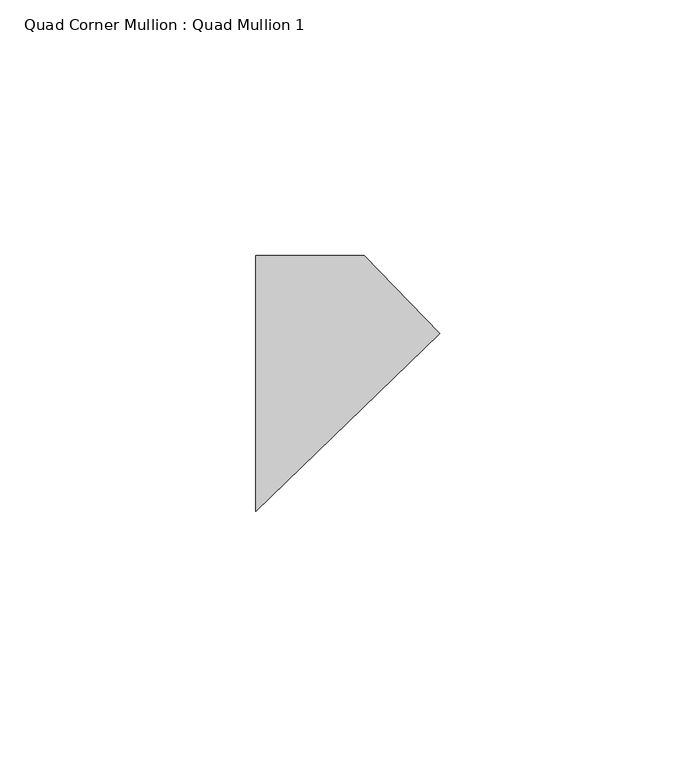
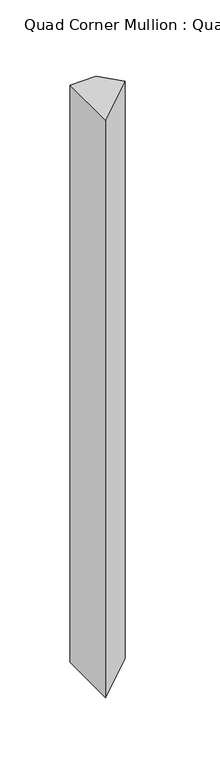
"""IFC4 building model written with IfcOpenShell, lengths in millimetres: member geometry, Quad Corner Mullion : Quad Mullion 1."""

from ifc_helpers import new_model, si_unit, frame, origin, place, context, project, spatial, polyline, outline, extrude, source, transform, mapped, element, save


def quad_corner_mullion_quad_mullion_1_09ad8e2b(model_context):
    return source(origin(), model_context, "Body", "SweptSolid", [
        extrude(outline(polyline([(25.3551196, 9.7329185), (-10.6118704, -25.0), (-10.6118704, 25.0), (10.6118704, 25.0), (25.3551196, 9.7329185)])), frame((0.0, 0.0, -500.0), z_axis=(0.0, 0.0, 1.0), x_axis=(1.0, 0.0, 0.0)), (0.0, 0.0, 1.0), 500.0),
    ])


if __name__ == "__main__":
    model = new_model("IFC4")
    model_context = context("Model", 3, world=origin())
    ifc_project = project(units=[si_unit("LENGTHUNIT", "METRE", prefix="MILLI")], contexts=[model_context])
    site = spatial("IfcSite", under=ifc_project)
    building = spatial("IfcBuilding", under=site)
    placement = place(None, origin())
    quad_corner_mullion_quad_mullion_1_shape = quad_corner_mullion_quad_mullion_1_09ad8e2b(model_context)
    element("IfcMember", 1, ObjectType="Quad Corner Mullion : Quad Mullion 1", at=placement, inside=building, context=model_context, shape_type="MappedRepresentation", body=[
        mapped(quad_corner_mullion_quad_mullion_1_shape, transform((0.0, 0.0, 0.0), x_axis=(1.0, 0.0, 0.0), y_axis=(0.0, 1.0, 0.0), z_axis=(0.0, 0.0, 1.0))),
    ])
    save(model, "model.ifc")
